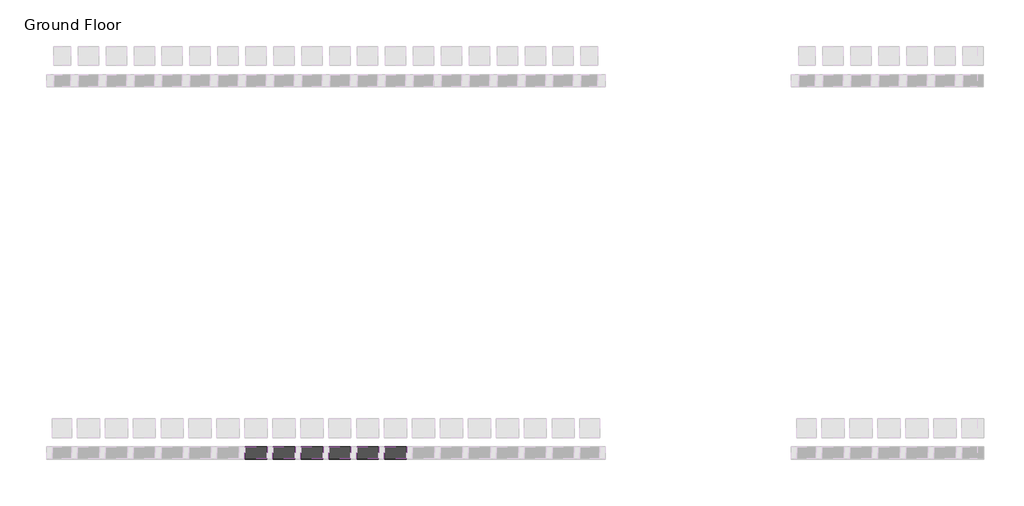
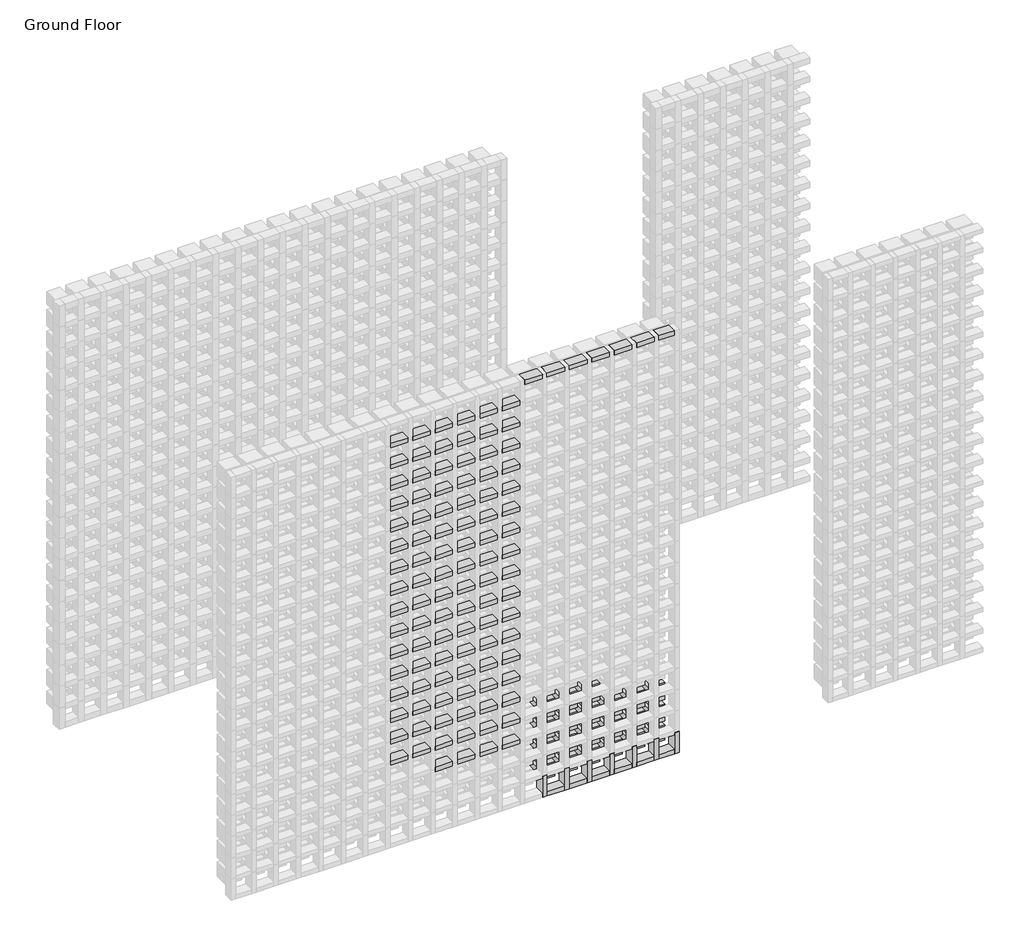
# One storey, part 70 of 350: 120 members, 21 plates.
"""IFC4 building model written with IfcOpenShell, lengths in millimetres."""

from ifc_helpers import new_model, si_unit, origin, place, context, project, spatial, transform, mapped, element, save
from components import rectangular_mullion_5b501421, rectangular_mullion_f2fcf417, rectangular_mullion_51467dcc, rectangular_mullion_27b03f3e, rectangular_mullion_d4c9a775, rectangular_mullion_f28dea33, rectangular_mullion_a9727e9f, empty_system_panel_empty_a57e421f, empty_system_panel_empty_fe50b430, empty_system_panel_empty_3353a095, empty_system_panel_empty_0cf761f0

model = new_model("IFC4")

# Units and contexts
model_context = context("Model", 3, world=origin())
ifc_project = project(units=[si_unit("LENGTHUNIT", "METRE", prefix="MILLI")], contexts=[model_context])

# Site, building, storey
site = spatial("IfcSite", under=ifc_project)
building = spatial("IfcBuilding", under=site)
storey = spatial("IfcBuildingStorey", under=building, Name="Ground Floor", Elevation=0.0)

# Members
placement = place(None, origin())
rectangular_mullion_shape = rectangular_mullion_5b501421(model_context)
element("IfcMember", 1, ObjectType="Rectangular Mullion : Batten_Timber_Modinex_Austratus_Grid_Fascia_30x65_Hemlock", at=placement, inside=storey, context=model_context, shape_type="MappedRepresentation", body=[
    mapped(rectangular_mullion_shape, transform((12016.4361642, 38968.2978302, 0.0), x_axis=(1.0, 0.0, 0.0), y_axis=(0.0, -1.0, 0.0), z_axis=(0.0, 0.0, -1.0))),
])
element("IfcMember", 2, ObjectType="Rectangular Mullion : Batten_Timber_Modinex_Austratus_Grid_Fascia_30x65_Hemlock", at=placement, inside=storey, context=model_context, shape_type="MappedRepresentation", body=[
    mapped(rectangular_mullion_shape, transform((12166.4361642, 38968.2978302, 0.0), x_axis=(1.0, 0.0, 0.0), y_axis=(0.0, -1.0, 0.0), z_axis=(0.0, 0.0, -1.0))),
])
element("IfcMember", 3, ObjectType="Rectangular Mullion : Batten_Timber_Modinex_Austratus_Grid_Fascia_30x65_Hemlock", at=placement, inside=storey, context=model_context, shape_type="MappedRepresentation", body=[
    mapped(rectangular_mullion_shape, transform((12316.4361642, 38968.2978302, 0.0), x_axis=(1.0, 0.0, 0.0), y_axis=(0.0, -1.0, 0.0), z_axis=(0.0, 0.0, -1.0))),
])
element("IfcMember", 4, ObjectType="Rectangular Mullion : Batten_Timber_Modinex_Austratus_Grid_Fascia_30x65_Hemlock", at=placement, inside=storey, context=model_context, shape_type="MappedRepresentation", body=[
    mapped(rectangular_mullion_shape, transform((12466.4361642, 38968.2978302, 0.0), x_axis=(1.0, 0.0, 0.0), y_axis=(0.0, -1.0, 0.0), z_axis=(0.0, 0.0, -1.0))),
])
element("IfcMember", 5, ObjectType="Rectangular Mullion : Batten_Timber_Modinex_Austratus_Grid_Fascia_30x65_Hemlock", at=placement, inside=storey, context=model_context, shape_type="MappedRepresentation", body=[
    mapped(rectangular_mullion_shape, transform((12616.4361642, 38968.2978302, 0.0), x_axis=(1.0, 0.0, 0.0), y_axis=(0.0, -1.0, 0.0), z_axis=(0.0, 0.0, -1.0))),
])
element("IfcMember", 6, ObjectType="Rectangular Mullion : Batten_Timber_Modinex_Austratus_Grid_Fascia_30x65_Hemlock", at=placement, inside=storey, context=model_context, shape_type="MappedRepresentation", body=[
    mapped(rectangular_mullion_shape, transform((12766.4361642, 38968.2978302, 0.0), x_axis=(1.0, 0.0, 0.0), y_axis=(0.0, -1.0, 0.0), z_axis=(0.0, 0.0, -1.0))),
])
rectangular_mullion_2_shape = rectangular_mullion_f2fcf417(model_context)
element("IfcMember", 7, ObjectType="Rectangular Mullion : Batten_Timber_Modinex_Austratus_Grid_Fascia_30x65_Hemlock", at=placement, inside=storey, context=model_context, shape_type="MappedRepresentation", body=[
    mapped(rectangular_mullion_2_shape, transform((12886.4361639, 38968.2978302, 3000.0), x_axis=(0.0, 0.0, 1.0), y_axis=(0.0, -1.0, 0.0), z_axis=(1.0, 0.0, 0.0))),
])
rectangular_mullion_3_shape = rectangular_mullion_51467dcc(model_context)
element("IfcMember", 8, ObjectType="Rectangular Mullion : Batten_Timber_Modinex_Austratus_Grid_Fascia_30x65_Hemlock", at=placement, inside=storey, context=model_context, shape_type="MappedRepresentation", body=[
    mapped(rectangular_mullion_3_shape, transform((12001.4361642, 38968.2978302, 3000.0), x_axis=(0.0, 0.0, 1.0), y_axis=(0.0, -1.0, 0.0), z_axis=(1.0, 0.0, 0.0))),
])
element("IfcMember", 9, ObjectType="Rectangular Mullion : Batten_Timber_Modinex_Austratus_Grid_Fascia_30x65_Hemlock", at=placement, inside=storey, context=model_context, shape_type="MappedRepresentation", body=[
    mapped(rectangular_mullion_3_shape, transform((12151.4361642, 38968.2978302, 3000.0), x_axis=(0.0, 0.0, 1.0), y_axis=(0.0, -1.0, 0.0), z_axis=(1.0, 0.0, 0.0))),
])
element("IfcMember", 10, ObjectType="Rectangular Mullion : Batten_Timber_Modinex_Austratus_Grid_Fascia_30x65_Hemlock", at=placement, inside=storey, context=model_context, shape_type="MappedRepresentation", body=[
    mapped(rectangular_mullion_3_shape, transform((12301.4361642, 38968.2978302, 3000.0), x_axis=(0.0, 0.0, 1.0), y_axis=(0.0, -1.0, 0.0), z_axis=(1.0, 0.0, 0.0))),
])
element("IfcMember", 11, ObjectType="Rectangular Mullion : Batten_Timber_Modinex_Austratus_Grid_Fascia_30x65_Hemlock", at=placement, inside=storey, context=model_context, shape_type="MappedRepresentation", body=[
    mapped(rectangular_mullion_3_shape, transform((12451.4361642, 38968.2978302, 3000.0), x_axis=(0.0, 0.0, 1.0), y_axis=(0.0, -1.0, 0.0), z_axis=(1.0, 0.0, 0.0))),
])
element("IfcMember", 12, ObjectType="Rectangular Mullion : Batten_Timber_Modinex_Austratus_Grid_Fascia_30x65_Hemlock", at=placement, inside=storey, context=model_context, shape_type="MappedRepresentation", body=[
    mapped(rectangular_mullion_3_shape, transform((12601.4361642, 38968.2978302, 3000.0), x_axis=(0.0, 0.0, 1.0), y_axis=(0.0, -1.0, 0.0), z_axis=(1.0, 0.0, 0.0))),
])
element("IfcMember", 13, ObjectType="Rectangular Mullion : Batten_Timber_Modinex_Austratus_Grid_Fascia_30x65_Hemlock", at=placement, inside=storey, context=model_context, shape_type="MappedRepresentation", body=[
    mapped(rectangular_mullion_3_shape, transform((12751.4361642, 38968.2978302, 3000.0), x_axis=(0.0, 0.0, 1.0), y_axis=(0.0, -1.0, 0.0), z_axis=(1.0, 0.0, 0.0))),
])
rectangular_mullion_4_shape = rectangular_mullion_27b03f3e(model_context)
element("IfcMember", 14, ObjectType="Rectangular Mullion : Batten_Timber_Modinex_Austratus_Grid_Fascia_30x65_Hemlock", at=placement, inside=storey, context=model_context, shape_type="MappedRepresentation", body=[
    mapped(rectangular_mullion_4_shape, transform((12781.4361642, 38968.2978302, 0.0), x_axis=(0.0, 0.0, -1.0), y_axis=(0.0, -1.0, 0.0), z_axis=(-1.0, 0.0, 0.0))),
])
rectangular_mullion_5_shape = rectangular_mullion_d4c9a775(model_context)
element("IfcMember", 15, ObjectType="Rectangular Mullion : Batten_Timber_Modinex_Austratus_Grid_Fascia_30x65_Hemlock", at=placement, inside=storey, context=model_context, shape_type="MappedRepresentation", body=[
    mapped(rectangular_mullion_5_shape, transform((12031.4361642, 38968.2978302, 0.0), x_axis=(0.0, 0.0, -1.0), y_axis=(0.0, -1.0, 0.0), z_axis=(-1.0, 0.0, 0.0))),
])
element("IfcMember", 16, ObjectType="Rectangular Mullion : Batten_Timber_Modinex_Austratus_Grid_Fascia_30x65_Hemlock", at=placement, inside=storey, context=model_context, shape_type="MappedRepresentation", body=[
    mapped(rectangular_mullion_5_shape, transform((12181.4361642, 38968.2978302, 0.0), x_axis=(0.0, 0.0, -1.0), y_axis=(0.0, -1.0, 0.0), z_axis=(-1.0, 0.0, 0.0))),
])
element("IfcMember", 17, ObjectType="Rectangular Mullion : Batten_Timber_Modinex_Austratus_Grid_Fascia_30x65_Hemlock", at=placement, inside=storey, context=model_context, shape_type="MappedRepresentation", body=[
    mapped(rectangular_mullion_5_shape, transform((12331.4361642, 38968.2978302, 0.0), x_axis=(0.0, 0.0, -1.0), y_axis=(0.0, -1.0, 0.0), z_axis=(-1.0, 0.0, 0.0))),
])
element("IfcMember", 18, ObjectType="Rectangular Mullion : Batten_Timber_Modinex_Austratus_Grid_Fascia_30x65_Hemlock", at=placement, inside=storey, context=model_context, shape_type="MappedRepresentation", body=[
    mapped(rectangular_mullion_5_shape, transform((12481.4361642, 38968.2978302, 0.0), x_axis=(0.0, 0.0, -1.0), y_axis=(0.0, -1.0, 0.0), z_axis=(-1.0, 0.0, 0.0))),
])
element("IfcMember", 19, ObjectType="Rectangular Mullion : Batten_Timber_Modinex_Austratus_Grid_Fascia_30x65_Hemlock", at=placement, inside=storey, context=model_context, shape_type="MappedRepresentation", body=[
    mapped(rectangular_mullion_5_shape, transform((12631.4361642, 38968.2978302, 0.0), x_axis=(0.0, 0.0, -1.0), y_axis=(0.0, -1.0, 0.0), z_axis=(-1.0, 0.0, 0.0))),
])
rectangular_mullion_6_shape = rectangular_mullion_f28dea33(model_context)
element("IfcMember", 20, ObjectType="Rectangular Mullion : Batten_Timber_Modinex_Austratus_Grid_Fascia_30x65_Hemlock", at=placement, inside=storey, context=model_context, shape_type="MappedRepresentation", body=[
    mapped(rectangular_mullion_6_shape, transform((11401.4361642, 38968.2978302, 450.0), x_axis=(0.0, 0.0, 1.0), y_axis=(0.0, -1.0, 0.0), z_axis=(1.0, 0.0, 0.0))),
])
element("IfcMember", 21, ObjectType="Rectangular Mullion : Batten_Timber_Modinex_Austratus_Grid_Fascia_30x65_Hemlock", at=placement, inside=storey, context=model_context, shape_type="MappedRepresentation", body=[
    mapped(rectangular_mullion_6_shape, transform((11551.4361642, 38968.2978302, 450.0), x_axis=(0.0, 0.0, 1.0), y_axis=(0.0, -1.0, 0.0), z_axis=(1.0, 0.0, 0.0))),
])
element("IfcMember", 22, ObjectType="Rectangular Mullion : Batten_Timber_Modinex_Austratus_Grid_Fascia_30x65_Hemlock", at=placement, inside=storey, context=model_context, shape_type="MappedRepresentation", body=[
    mapped(rectangular_mullion_6_shape, transform((11701.4361642, 38968.2978302, 450.0), x_axis=(0.0, 0.0, 1.0), y_axis=(0.0, -1.0, 0.0), z_axis=(1.0, 0.0, 0.0))),
])
element("IfcMember", 23, ObjectType="Rectangular Mullion : Batten_Timber_Modinex_Austratus_Grid_Fascia_30x65_Hemlock", at=placement, inside=storey, context=model_context, shape_type="MappedRepresentation", body=[
    mapped(rectangular_mullion_6_shape, transform((11851.4361642, 38968.2978302, 450.0), x_axis=(0.0, 0.0, 1.0), y_axis=(0.0, -1.0, 0.0), z_axis=(1.0, 0.0, 0.0))),
])
element("IfcMember", 24, ObjectType="Rectangular Mullion : Batten_Timber_Modinex_Austratus_Grid_Fascia_30x65_Hemlock", at=placement, inside=storey, context=model_context, shape_type="MappedRepresentation", body=[
    mapped(rectangular_mullion_6_shape, transform((11101.4361642, 38968.2978302, 600.0), x_axis=(0.0, 0.0, 1.0), y_axis=(0.0, -1.0, 0.0), z_axis=(1.0, 0.0, 0.0))),
])
element("IfcMember", 25, ObjectType="Rectangular Mullion : Batten_Timber_Modinex_Austratus_Grid_Fascia_30x65_Hemlock", at=placement, inside=storey, context=model_context, shape_type="MappedRepresentation", body=[
    mapped(rectangular_mullion_6_shape, transform((11251.4361642, 38968.2978302, 600.0), x_axis=(0.0, 0.0, 1.0), y_axis=(0.0, -1.0, 0.0), z_axis=(1.0, 0.0, 0.0))),
])
element("IfcMember", 26, ObjectType="Rectangular Mullion : Batten_Timber_Modinex_Austratus_Grid_Fascia_30x65_Hemlock", at=placement, inside=storey, context=model_context, shape_type="MappedRepresentation", body=[
    mapped(rectangular_mullion_6_shape, transform((11401.4361642, 38968.2978302, 600.0), x_axis=(0.0, 0.0, 1.0), y_axis=(0.0, -1.0, 0.0), z_axis=(1.0, 0.0, 0.0))),
])
element("IfcMember", 27, ObjectType="Rectangular Mullion : Batten_Timber_Modinex_Austratus_Grid_Fascia_30x65_Hemlock", at=placement, inside=storey, context=model_context, shape_type="MappedRepresentation", body=[
    mapped(rectangular_mullion_6_shape, transform((11551.4361642, 38968.2978302, 600.0), x_axis=(0.0, 0.0, 1.0), y_axis=(0.0, -1.0, 0.0), z_axis=(1.0, 0.0, 0.0))),
])
element("IfcMember", 28, ObjectType="Rectangular Mullion : Batten_Timber_Modinex_Austratus_Grid_Fascia_30x65_Hemlock", at=placement, inside=storey, context=model_context, shape_type="MappedRepresentation", body=[
    mapped(rectangular_mullion_6_shape, transform((11701.4361642, 38968.2978302, 600.0), x_axis=(0.0, 0.0, 1.0), y_axis=(0.0, -1.0, 0.0), z_axis=(1.0, 0.0, 0.0))),
])
element("IfcMember", 29, ObjectType="Rectangular Mullion : Batten_Timber_Modinex_Austratus_Grid_Fascia_30x65_Hemlock", at=placement, inside=storey, context=model_context, shape_type="MappedRepresentation", body=[
    mapped(rectangular_mullion_6_shape, transform((11851.4361642, 38968.2978302, 600.0), x_axis=(0.0, 0.0, 1.0), y_axis=(0.0, -1.0, 0.0), z_axis=(1.0, 0.0, 0.0))),
])
element("IfcMember", 30, ObjectType="Rectangular Mullion : Batten_Timber_Modinex_Austratus_Grid_Fascia_30x65_Hemlock", at=placement, inside=storey, context=model_context, shape_type="MappedRepresentation", body=[
    mapped(rectangular_mullion_6_shape, transform((11101.4361642, 38968.2978302, 750.0), x_axis=(0.0, 0.0, 1.0), y_axis=(0.0, -1.0, 0.0), z_axis=(1.0, 0.0, 0.0))),
])
element("IfcMember", 31, ObjectType="Rectangular Mullion : Batten_Timber_Modinex_Austratus_Grid_Fascia_30x65_Hemlock", at=placement, inside=storey, context=model_context, shape_type="MappedRepresentation", body=[
    mapped(rectangular_mullion_6_shape, transform((11251.4361642, 38968.2978302, 750.0), x_axis=(0.0, 0.0, 1.0), y_axis=(0.0, -1.0, 0.0), z_axis=(1.0, 0.0, 0.0))),
])
element("IfcMember", 32, ObjectType="Rectangular Mullion : Batten_Timber_Modinex_Austratus_Grid_Fascia_30x65_Hemlock", at=placement, inside=storey, context=model_context, shape_type="MappedRepresentation", body=[
    mapped(rectangular_mullion_6_shape, transform((11401.4361642, 38968.2978302, 750.0), x_axis=(0.0, 0.0, 1.0), y_axis=(0.0, -1.0, 0.0), z_axis=(1.0, 0.0, 0.0))),
])
element("IfcMember", 33, ObjectType="Rectangular Mullion : Batten_Timber_Modinex_Austratus_Grid_Fascia_30x65_Hemlock", at=placement, inside=storey, context=model_context, shape_type="MappedRepresentation", body=[
    mapped(rectangular_mullion_6_shape, transform((11551.4361642, 38968.2978302, 750.0), x_axis=(0.0, 0.0, 1.0), y_axis=(0.0, -1.0, 0.0), z_axis=(1.0, 0.0, 0.0))),
])
element("IfcMember", 34, ObjectType="Rectangular Mullion : Batten_Timber_Modinex_Austratus_Grid_Fascia_30x65_Hemlock", at=placement, inside=storey, context=model_context, shape_type="MappedRepresentation", body=[
    mapped(rectangular_mullion_6_shape, transform((11701.4361642, 38968.2978302, 750.0), x_axis=(0.0, 0.0, 1.0), y_axis=(0.0, -1.0, 0.0), z_axis=(1.0, 0.0, 0.0))),
])
element("IfcMember", 35, ObjectType="Rectangular Mullion : Batten_Timber_Modinex_Austratus_Grid_Fascia_30x65_Hemlock", at=placement, inside=storey, context=model_context, shape_type="MappedRepresentation", body=[
    mapped(rectangular_mullion_6_shape, transform((11851.4361642, 38968.2978302, 750.0), x_axis=(0.0, 0.0, 1.0), y_axis=(0.0, -1.0, 0.0), z_axis=(1.0, 0.0, 0.0))),
])
element("IfcMember", 36, ObjectType="Rectangular Mullion : Batten_Timber_Modinex_Austratus_Grid_Fascia_30x65_Hemlock", at=placement, inside=storey, context=model_context, shape_type="MappedRepresentation", body=[
    mapped(rectangular_mullion_6_shape, transform((11101.4361642, 38968.2978302, 900.0), x_axis=(0.0, 0.0, 1.0), y_axis=(0.0, -1.0, 0.0), z_axis=(1.0, 0.0, 0.0))),
])
element("IfcMember", 37, ObjectType="Rectangular Mullion : Batten_Timber_Modinex_Austratus_Grid_Fascia_30x65_Hemlock", at=placement, inside=storey, context=model_context, shape_type="MappedRepresentation", body=[
    mapped(rectangular_mullion_6_shape, transform((11251.4361642, 38968.2978302, 900.0), x_axis=(0.0, 0.0, 1.0), y_axis=(0.0, -1.0, 0.0), z_axis=(1.0, 0.0, 0.0))),
])
element("IfcMember", 38, ObjectType="Rectangular Mullion : Batten_Timber_Modinex_Austratus_Grid_Fascia_30x65_Hemlock", at=placement, inside=storey, context=model_context, shape_type="MappedRepresentation", body=[
    mapped(rectangular_mullion_6_shape, transform((11401.4361642, 38968.2978302, 900.0), x_axis=(0.0, 0.0, 1.0), y_axis=(0.0, -1.0, 0.0), z_axis=(1.0, 0.0, 0.0))),
])
element("IfcMember", 39, ObjectType="Rectangular Mullion : Batten_Timber_Modinex_Austratus_Grid_Fascia_30x65_Hemlock", at=placement, inside=storey, context=model_context, shape_type="MappedRepresentation", body=[
    mapped(rectangular_mullion_6_shape, transform((11551.4361642, 38968.2978302, 900.0), x_axis=(0.0, 0.0, 1.0), y_axis=(0.0, -1.0, 0.0), z_axis=(1.0, 0.0, 0.0))),
])
element("IfcMember", 40, ObjectType="Rectangular Mullion : Batten_Timber_Modinex_Austratus_Grid_Fascia_30x65_Hemlock", at=placement, inside=storey, context=model_context, shape_type="MappedRepresentation", body=[
    mapped(rectangular_mullion_6_shape, transform((11701.4361642, 38968.2978302, 900.0), x_axis=(0.0, 0.0, 1.0), y_axis=(0.0, -1.0, 0.0), z_axis=(1.0, 0.0, 0.0))),
])
element("IfcMember", 41, ObjectType="Rectangular Mullion : Batten_Timber_Modinex_Austratus_Grid_Fascia_30x65_Hemlock", at=placement, inside=storey, context=model_context, shape_type="MappedRepresentation", body=[
    mapped(rectangular_mullion_6_shape, transform((11851.4361642, 38968.2978302, 900.0), x_axis=(0.0, 0.0, 1.0), y_axis=(0.0, -1.0, 0.0), z_axis=(1.0, 0.0, 0.0))),
])
element("IfcMember", 42, ObjectType="Rectangular Mullion : Batten_Timber_Modinex_Austratus_Grid_Fascia_30x65_Hemlock", at=placement, inside=storey, context=model_context, shape_type="MappedRepresentation", body=[
    mapped(rectangular_mullion_6_shape, transform((11101.4361642, 38968.2978302, 1050.0), x_axis=(0.0, 0.0, 1.0), y_axis=(0.0, -1.0, 0.0), z_axis=(1.0, 0.0, 0.0))),
])
element("IfcMember", 43, ObjectType="Rectangular Mullion : Batten_Timber_Modinex_Austratus_Grid_Fascia_30x65_Hemlock", at=placement, inside=storey, context=model_context, shape_type="MappedRepresentation", body=[
    mapped(rectangular_mullion_6_shape, transform((11251.4361642, 38968.2978302, 1050.0), x_axis=(0.0, 0.0, 1.0), y_axis=(0.0, -1.0, 0.0), z_axis=(1.0, 0.0, 0.0))),
])
element("IfcMember", 44, ObjectType="Rectangular Mullion : Batten_Timber_Modinex_Austratus_Grid_Fascia_30x65_Hemlock", at=placement, inside=storey, context=model_context, shape_type="MappedRepresentation", body=[
    mapped(rectangular_mullion_6_shape, transform((11401.4361642, 38968.2978302, 1050.0), x_axis=(0.0, 0.0, 1.0), y_axis=(0.0, -1.0, 0.0), z_axis=(1.0, 0.0, 0.0))),
])
element("IfcMember", 45, ObjectType="Rectangular Mullion : Batten_Timber_Modinex_Austratus_Grid_Fascia_30x65_Hemlock", at=placement, inside=storey, context=model_context, shape_type="MappedRepresentation", body=[
    mapped(rectangular_mullion_6_shape, transform((11551.4361642, 38968.2978302, 1050.0), x_axis=(0.0, 0.0, 1.0), y_axis=(0.0, -1.0, 0.0), z_axis=(1.0, 0.0, 0.0))),
])
element("IfcMember", 46, ObjectType="Rectangular Mullion : Batten_Timber_Modinex_Austratus_Grid_Fascia_30x65_Hemlock", at=placement, inside=storey, context=model_context, shape_type="MappedRepresentation", body=[
    mapped(rectangular_mullion_6_shape, transform((11701.4361642, 38968.2978302, 1050.0), x_axis=(0.0, 0.0, 1.0), y_axis=(0.0, -1.0, 0.0), z_axis=(1.0, 0.0, 0.0))),
])
element("IfcMember", 47, ObjectType="Rectangular Mullion : Batten_Timber_Modinex_Austratus_Grid_Fascia_30x65_Hemlock", at=placement, inside=storey, context=model_context, shape_type="MappedRepresentation", body=[
    mapped(rectangular_mullion_6_shape, transform((11851.4361642, 38968.2978302, 1050.0), x_axis=(0.0, 0.0, 1.0), y_axis=(0.0, -1.0, 0.0), z_axis=(1.0, 0.0, 0.0))),
])
element("IfcMember", 48, ObjectType="Rectangular Mullion : Batten_Timber_Modinex_Austratus_Grid_Fascia_30x65_Hemlock", at=placement, inside=storey, context=model_context, shape_type="MappedRepresentation", body=[
    mapped(rectangular_mullion_6_shape, transform((11101.4361642, 38968.2978302, 1200.0), x_axis=(0.0, 0.0, 1.0), y_axis=(0.0, -1.0, 0.0), z_axis=(1.0, 0.0, 0.0))),
])
element("IfcMember", 49, ObjectType="Rectangular Mullion : Batten_Timber_Modinex_Austratus_Grid_Fascia_30x65_Hemlock", at=placement, inside=storey, context=model_context, shape_type="MappedRepresentation", body=[
    mapped(rectangular_mullion_6_shape, transform((11251.4361642, 38968.2978302, 1200.0), x_axis=(0.0, 0.0, 1.0), y_axis=(0.0, -1.0, 0.0), z_axis=(1.0, 0.0, 0.0))),
])
element("IfcMember", 50, ObjectType="Rectangular Mullion : Batten_Timber_Modinex_Austratus_Grid_Fascia_30x65_Hemlock", at=placement, inside=storey, context=model_context, shape_type="MappedRepresentation", body=[
    mapped(rectangular_mullion_6_shape, transform((11401.4361642, 38968.2978302, 1200.0), x_axis=(0.0, 0.0, 1.0), y_axis=(0.0, -1.0, 0.0), z_axis=(1.0, 0.0, 0.0))),
])
element("IfcMember", 51, ObjectType="Rectangular Mullion : Batten_Timber_Modinex_Austratus_Grid_Fascia_30x65_Hemlock", at=placement, inside=storey, context=model_context, shape_type="MappedRepresentation", body=[
    mapped(rectangular_mullion_6_shape, transform((11551.4361642, 38968.2978302, 1200.0), x_axis=(0.0, 0.0, 1.0), y_axis=(0.0, -1.0, 0.0), z_axis=(1.0, 0.0, 0.0))),
])
element("IfcMember", 52, ObjectType="Rectangular Mullion : Batten_Timber_Modinex_Austratus_Grid_Fascia_30x65_Hemlock", at=placement, inside=storey, context=model_context, shape_type="MappedRepresentation", body=[
    mapped(rectangular_mullion_6_shape, transform((11701.4361642, 38968.2978302, 1200.0), x_axis=(0.0, 0.0, 1.0), y_axis=(0.0, -1.0, 0.0), z_axis=(1.0, 0.0, 0.0))),
])
element("IfcMember", 53, ObjectType="Rectangular Mullion : Batten_Timber_Modinex_Austratus_Grid_Fascia_30x65_Hemlock", at=placement, inside=storey, context=model_context, shape_type="MappedRepresentation", body=[
    mapped(rectangular_mullion_6_shape, transform((11851.4361642, 38968.2978302, 1200.0), x_axis=(0.0, 0.0, 1.0), y_axis=(0.0, -1.0, 0.0), z_axis=(1.0, 0.0, 0.0))),
])
element("IfcMember", 54, ObjectType="Rectangular Mullion : Batten_Timber_Modinex_Austratus_Grid_Fascia_30x65_Hemlock", at=placement, inside=storey, context=model_context, shape_type="MappedRepresentation", body=[
    mapped(rectangular_mullion_6_shape, transform((11101.4361642, 38968.2978302, 1350.0), x_axis=(0.0, 0.0, 1.0), y_axis=(0.0, -1.0, 0.0), z_axis=(1.0, 0.0, 0.0))),
])
element("IfcMember", 55, ObjectType="Rectangular Mullion : Batten_Timber_Modinex_Austratus_Grid_Fascia_30x65_Hemlock", at=placement, inside=storey, context=model_context, shape_type="MappedRepresentation", body=[
    mapped(rectangular_mullion_6_shape, transform((11251.4361642, 38968.2978302, 1350.0), x_axis=(0.0, 0.0, 1.0), y_axis=(0.0, -1.0, 0.0), z_axis=(1.0, 0.0, 0.0))),
])
element("IfcMember", 56, ObjectType="Rectangular Mullion : Batten_Timber_Modinex_Austratus_Grid_Fascia_30x65_Hemlock", at=placement, inside=storey, context=model_context, shape_type="MappedRepresentation", body=[
    mapped(rectangular_mullion_6_shape, transform((11401.4361642, 38968.2978302, 1350.0), x_axis=(0.0, 0.0, 1.0), y_axis=(0.0, -1.0, 0.0), z_axis=(1.0, 0.0, 0.0))),
])
element("IfcMember", 57, ObjectType="Rectangular Mullion : Batten_Timber_Modinex_Austratus_Grid_Fascia_30x65_Hemlock", at=placement, inside=storey, context=model_context, shape_type="MappedRepresentation", body=[
    mapped(rectangular_mullion_6_shape, transform((11551.4361642, 38968.2978302, 1350.0), x_axis=(0.0, 0.0, 1.0), y_axis=(0.0, -1.0, 0.0), z_axis=(1.0, 0.0, 0.0))),
])
element("IfcMember", 58, ObjectType="Rectangular Mullion : Batten_Timber_Modinex_Austratus_Grid_Fascia_30x65_Hemlock", at=placement, inside=storey, context=model_context, shape_type="MappedRepresentation", body=[
    mapped(rectangular_mullion_6_shape, transform((11701.4361642, 38968.2978302, 1350.0), x_axis=(0.0, 0.0, 1.0), y_axis=(0.0, -1.0, 0.0), z_axis=(1.0, 0.0, 0.0))),
])
element("IfcMember", 59, ObjectType="Rectangular Mullion : Batten_Timber_Modinex_Austratus_Grid_Fascia_30x65_Hemlock", at=placement, inside=storey, context=model_context, shape_type="MappedRepresentation", body=[
    mapped(rectangular_mullion_6_shape, transform((11851.4361642, 38968.2978302, 1350.0), x_axis=(0.0, 0.0, 1.0), y_axis=(0.0, -1.0, 0.0), z_axis=(1.0, 0.0, 0.0))),
])
element("IfcMember", 60, ObjectType="Rectangular Mullion : Batten_Timber_Modinex_Austratus_Grid_Fascia_30x65_Hemlock", at=placement, inside=storey, context=model_context, shape_type="MappedRepresentation", body=[
    mapped(rectangular_mullion_6_shape, transform((11101.4361642, 38968.2978302, 1500.0), x_axis=(0.0, 0.0, 1.0), y_axis=(0.0, -1.0, 0.0), z_axis=(1.0, 0.0, 0.0))),
])
element("IfcMember", 61, ObjectType="Rectangular Mullion : Batten_Timber_Modinex_Austratus_Grid_Fascia_30x65_Hemlock", at=placement, inside=storey, context=model_context, shape_type="MappedRepresentation", body=[
    mapped(rectangular_mullion_6_shape, transform((11251.4361642, 38968.2978302, 1500.0), x_axis=(0.0, 0.0, 1.0), y_axis=(0.0, -1.0, 0.0), z_axis=(1.0, 0.0, 0.0))),
])
element("IfcMember", 62, ObjectType="Rectangular Mullion : Batten_Timber_Modinex_Austratus_Grid_Fascia_30x65_Hemlock", at=placement, inside=storey, context=model_context, shape_type="MappedRepresentation", body=[
    mapped(rectangular_mullion_6_shape, transform((11401.4361642, 38968.2978302, 1500.0), x_axis=(0.0, 0.0, 1.0), y_axis=(0.0, -1.0, 0.0), z_axis=(1.0, 0.0, 0.0))),
])
element("IfcMember", 63, ObjectType="Rectangular Mullion : Batten_Timber_Modinex_Austratus_Grid_Fascia_30x65_Hemlock", at=placement, inside=storey, context=model_context, shape_type="MappedRepresentation", body=[
    mapped(rectangular_mullion_6_shape, transform((11551.4361642, 38968.2978302, 1500.0), x_axis=(0.0, 0.0, 1.0), y_axis=(0.0, -1.0, 0.0), z_axis=(1.0, 0.0, 0.0))),
])
element("IfcMember", 64, ObjectType="Rectangular Mullion : Batten_Timber_Modinex_Austratus_Grid_Fascia_30x65_Hemlock", at=placement, inside=storey, context=model_context, shape_type="MappedRepresentation", body=[
    mapped(rectangular_mullion_6_shape, transform((11701.4361642, 38968.2978302, 1500.0), x_axis=(0.0, 0.0, 1.0), y_axis=(0.0, -1.0, 0.0), z_axis=(1.0, 0.0, 0.0))),
])
element("IfcMember", 65, ObjectType="Rectangular Mullion : Batten_Timber_Modinex_Austratus_Grid_Fascia_30x65_Hemlock", at=placement, inside=storey, context=model_context, shape_type="MappedRepresentation", body=[
    mapped(rectangular_mullion_6_shape, transform((11851.4361642, 38968.2978302, 1500.0), x_axis=(0.0, 0.0, 1.0), y_axis=(0.0, -1.0, 0.0), z_axis=(1.0, 0.0, 0.0))),
])
element("IfcMember", 66, ObjectType="Rectangular Mullion : Batten_Timber_Modinex_Austratus_Grid_Fascia_30x65_Hemlock", at=placement, inside=storey, context=model_context, shape_type="MappedRepresentation", body=[
    mapped(rectangular_mullion_6_shape, transform((11101.4361642, 38968.2978302, 1650.0), x_axis=(0.0, 0.0, 1.0), y_axis=(0.0, -1.0, 0.0), z_axis=(1.0, 0.0, 0.0))),
])
element("IfcMember", 67, ObjectType="Rectangular Mullion : Batten_Timber_Modinex_Austratus_Grid_Fascia_30x65_Hemlock", at=placement, inside=storey, context=model_context, shape_type="MappedRepresentation", body=[
    mapped(rectangular_mullion_6_shape, transform((11251.4361642, 38968.2978302, 1650.0), x_axis=(0.0, 0.0, 1.0), y_axis=(0.0, -1.0, 0.0), z_axis=(1.0, 0.0, 0.0))),
])
element("IfcMember", 68, ObjectType="Rectangular Mullion : Batten_Timber_Modinex_Austratus_Grid_Fascia_30x65_Hemlock", at=placement, inside=storey, context=model_context, shape_type="MappedRepresentation", body=[
    mapped(rectangular_mullion_6_shape, transform((11401.4361642, 38968.2978302, 1650.0), x_axis=(0.0, 0.0, 1.0), y_axis=(0.0, -1.0, 0.0), z_axis=(1.0, 0.0, 0.0))),
])
element("IfcMember", 69, ObjectType="Rectangular Mullion : Batten_Timber_Modinex_Austratus_Grid_Fascia_30x65_Hemlock", at=placement, inside=storey, context=model_context, shape_type="MappedRepresentation", body=[
    mapped(rectangular_mullion_6_shape, transform((11551.4361642, 38968.2978302, 1650.0), x_axis=(0.0, 0.0, 1.0), y_axis=(0.0, -1.0, 0.0), z_axis=(1.0, 0.0, 0.0))),
])
element("IfcMember", 70, ObjectType="Rectangular Mullion : Batten_Timber_Modinex_Austratus_Grid_Fascia_30x65_Hemlock", at=placement, inside=storey, context=model_context, shape_type="MappedRepresentation", body=[
    mapped(rectangular_mullion_6_shape, transform((11701.4361642, 38968.2978302, 1650.0), x_axis=(0.0, 0.0, 1.0), y_axis=(0.0, -1.0, 0.0), z_axis=(1.0, 0.0, 0.0))),
])
element("IfcMember", 71, ObjectType="Rectangular Mullion : Batten_Timber_Modinex_Austratus_Grid_Fascia_30x65_Hemlock", at=placement, inside=storey, context=model_context, shape_type="MappedRepresentation", body=[
    mapped(rectangular_mullion_6_shape, transform((11851.4361642, 38968.2978302, 1650.0), x_axis=(0.0, 0.0, 1.0), y_axis=(0.0, -1.0, 0.0), z_axis=(1.0, 0.0, 0.0))),
])
element("IfcMember", 72, ObjectType="Rectangular Mullion : Batten_Timber_Modinex_Austratus_Grid_Fascia_30x65_Hemlock", at=placement, inside=storey, context=model_context, shape_type="MappedRepresentation", body=[
    mapped(rectangular_mullion_6_shape, transform((11101.4361642, 38968.2978302, 1800.0), x_axis=(0.0, 0.0, 1.0), y_axis=(0.0, -1.0, 0.0), z_axis=(1.0, 0.0, 0.0))),
])
element("IfcMember", 73, ObjectType="Rectangular Mullion : Batten_Timber_Modinex_Austratus_Grid_Fascia_30x65_Hemlock", at=placement, inside=storey, context=model_context, shape_type="MappedRepresentation", body=[
    mapped(rectangular_mullion_6_shape, transform((11251.4361642, 38968.2978302, 1800.0), x_axis=(0.0, 0.0, 1.0), y_axis=(0.0, -1.0, 0.0), z_axis=(1.0, 0.0, 0.0))),
])
element("IfcMember", 74, ObjectType="Rectangular Mullion : Batten_Timber_Modinex_Austratus_Grid_Fascia_30x65_Hemlock", at=placement, inside=storey, context=model_context, shape_type="MappedRepresentation", body=[
    mapped(rectangular_mullion_6_shape, transform((11401.4361642, 38968.2978302, 1800.0), x_axis=(0.0, 0.0, 1.0), y_axis=(0.0, -1.0, 0.0), z_axis=(1.0, 0.0, 0.0))),
])
element("IfcMember", 75, ObjectType="Rectangular Mullion : Batten_Timber_Modinex_Austratus_Grid_Fascia_30x65_Hemlock", at=placement, inside=storey, context=model_context, shape_type="MappedRepresentation", body=[
    mapped(rectangular_mullion_6_shape, transform((11551.4361642, 38968.2978302, 1800.0), x_axis=(0.0, 0.0, 1.0), y_axis=(0.0, -1.0, 0.0), z_axis=(1.0, 0.0, 0.0))),
])
element("IfcMember", 76, ObjectType="Rectangular Mullion : Batten_Timber_Modinex_Austratus_Grid_Fascia_30x65_Hemlock", at=placement, inside=storey, context=model_context, shape_type="MappedRepresentation", body=[
    mapped(rectangular_mullion_6_shape, transform((11701.4361642, 38968.2978302, 1800.0), x_axis=(0.0, 0.0, 1.0), y_axis=(0.0, -1.0, 0.0), z_axis=(1.0, 0.0, 0.0))),
])
element("IfcMember", 77, ObjectType="Rectangular Mullion : Batten_Timber_Modinex_Austratus_Grid_Fascia_30x65_Hemlock", at=placement, inside=storey, context=model_context, shape_type="MappedRepresentation", body=[
    mapped(rectangular_mullion_6_shape, transform((11851.4361642, 38968.2978302, 1800.0), x_axis=(0.0, 0.0, 1.0), y_axis=(0.0, -1.0, 0.0), z_axis=(1.0, 0.0, 0.0))),
])
element("IfcMember", 78, ObjectType="Rectangular Mullion : Batten_Timber_Modinex_Austratus_Grid_Fascia_30x65_Hemlock", at=placement, inside=storey, context=model_context, shape_type="MappedRepresentation", body=[
    mapped(rectangular_mullion_6_shape, transform((11101.4361642, 38968.2978302, 1950.0), x_axis=(0.0, 0.0, 1.0), y_axis=(0.0, -1.0, 0.0), z_axis=(1.0, 0.0, 0.0))),
])
element("IfcMember", 79, ObjectType="Rectangular Mullion : Batten_Timber_Modinex_Austratus_Grid_Fascia_30x65_Hemlock", at=placement, inside=storey, context=model_context, shape_type="MappedRepresentation", body=[
    mapped(rectangular_mullion_6_shape, transform((11251.4361642, 38968.2978302, 1950.0), x_axis=(0.0, 0.0, 1.0), y_axis=(0.0, -1.0, 0.0), z_axis=(1.0, 0.0, 0.0))),
])
element("IfcMember", 80, ObjectType="Rectangular Mullion : Batten_Timber_Modinex_Austratus_Grid_Fascia_30x65_Hemlock", at=placement, inside=storey, context=model_context, shape_type="MappedRepresentation", body=[
    mapped(rectangular_mullion_6_shape, transform((11401.4361642, 38968.2978302, 1950.0), x_axis=(0.0, 0.0, 1.0), y_axis=(0.0, -1.0, 0.0), z_axis=(1.0, 0.0, 0.0))),
])
element("IfcMember", 81, ObjectType="Rectangular Mullion : Batten_Timber_Modinex_Austratus_Grid_Fascia_30x65_Hemlock", at=placement, inside=storey, context=model_context, shape_type="MappedRepresentation", body=[
    mapped(rectangular_mullion_6_shape, transform((11551.4361642, 38968.2978302, 1950.0), x_axis=(0.0, 0.0, 1.0), y_axis=(0.0, -1.0, 0.0), z_axis=(1.0, 0.0, 0.0))),
])
element("IfcMember", 82, ObjectType="Rectangular Mullion : Batten_Timber_Modinex_Austratus_Grid_Fascia_30x65_Hemlock", at=placement, inside=storey, context=model_context, shape_type="MappedRepresentation", body=[
    mapped(rectangular_mullion_6_shape, transform((11701.4361642, 38968.2978302, 1950.0), x_axis=(0.0, 0.0, 1.0), y_axis=(0.0, -1.0, 0.0), z_axis=(1.0, 0.0, 0.0))),
])
element("IfcMember", 83, ObjectType="Rectangular Mullion : Batten_Timber_Modinex_Austratus_Grid_Fascia_30x65_Hemlock", at=placement, inside=storey, context=model_context, shape_type="MappedRepresentation", body=[
    mapped(rectangular_mullion_6_shape, transform((11851.4361642, 38968.2978302, 1950.0), x_axis=(0.0, 0.0, 1.0), y_axis=(0.0, -1.0, 0.0), z_axis=(1.0, 0.0, 0.0))),
])
element("IfcMember", 84, ObjectType="Rectangular Mullion : Batten_Timber_Modinex_Austratus_Grid_Fascia_30x65_Hemlock", at=placement, inside=storey, context=model_context, shape_type="MappedRepresentation", body=[
    mapped(rectangular_mullion_6_shape, transform((11101.4361642, 38968.2978302, 2100.0), x_axis=(0.0, 0.0, 1.0), y_axis=(0.0, -1.0, 0.0), z_axis=(1.0, 0.0, 0.0))),
])
element("IfcMember", 85, ObjectType="Rectangular Mullion : Batten_Timber_Modinex_Austratus_Grid_Fascia_30x65_Hemlock", at=placement, inside=storey, context=model_context, shape_type="MappedRepresentation", body=[
    mapped(rectangular_mullion_6_shape, transform((11251.4361642, 38968.2978302, 2100.0), x_axis=(0.0, 0.0, 1.0), y_axis=(0.0, -1.0, 0.0), z_axis=(1.0, 0.0, 0.0))),
])
element("IfcMember", 86, ObjectType="Rectangular Mullion : Batten_Timber_Modinex_Austratus_Grid_Fascia_30x65_Hemlock", at=placement, inside=storey, context=model_context, shape_type="MappedRepresentation", body=[
    mapped(rectangular_mullion_6_shape, transform((11401.4361642, 38968.2978302, 2100.0), x_axis=(0.0, 0.0, 1.0), y_axis=(0.0, -1.0, 0.0), z_axis=(1.0, 0.0, 0.0))),
])
element("IfcMember", 87, ObjectType="Rectangular Mullion : Batten_Timber_Modinex_Austratus_Grid_Fascia_30x65_Hemlock", at=placement, inside=storey, context=model_context, shape_type="MappedRepresentation", body=[
    mapped(rectangular_mullion_6_shape, transform((11551.4361642, 38968.2978302, 2100.0), x_axis=(0.0, 0.0, 1.0), y_axis=(0.0, -1.0, 0.0), z_axis=(1.0, 0.0, 0.0))),
])
element("IfcMember", 88, ObjectType="Rectangular Mullion : Batten_Timber_Modinex_Austratus_Grid_Fascia_30x65_Hemlock", at=placement, inside=storey, context=model_context, shape_type="MappedRepresentation", body=[
    mapped(rectangular_mullion_6_shape, transform((11701.4361642, 38968.2978302, 2100.0), x_axis=(0.0, 0.0, 1.0), y_axis=(0.0, -1.0, 0.0), z_axis=(1.0, 0.0, 0.0))),
])
element("IfcMember", 89, ObjectType="Rectangular Mullion : Batten_Timber_Modinex_Austratus_Grid_Fascia_30x65_Hemlock", at=placement, inside=storey, context=model_context, shape_type="MappedRepresentation", body=[
    mapped(rectangular_mullion_6_shape, transform((11851.4361642, 38968.2978302, 2100.0), x_axis=(0.0, 0.0, 1.0), y_axis=(0.0, -1.0, 0.0), z_axis=(1.0, 0.0, 0.0))),
])
element("IfcMember", 90, ObjectType="Rectangular Mullion : Batten_Timber_Modinex_Austratus_Grid_Fascia_30x65_Hemlock", at=placement, inside=storey, context=model_context, shape_type="MappedRepresentation", body=[
    mapped(rectangular_mullion_6_shape, transform((11101.4361642, 38968.2978302, 2250.0), x_axis=(0.0, 0.0, 1.0), y_axis=(0.0, -1.0, 0.0), z_axis=(1.0, 0.0, 0.0))),
])
element("IfcMember", 91, ObjectType="Rectangular Mullion : Batten_Timber_Modinex_Austratus_Grid_Fascia_30x65_Hemlock", at=placement, inside=storey, context=model_context, shape_type="MappedRepresentation", body=[
    mapped(rectangular_mullion_6_shape, transform((11251.4361642, 38968.2978302, 2250.0), x_axis=(0.0, 0.0, 1.0), y_axis=(0.0, -1.0, 0.0), z_axis=(1.0, 0.0, 0.0))),
])
element("IfcMember", 92, ObjectType="Rectangular Mullion : Batten_Timber_Modinex_Austratus_Grid_Fascia_30x65_Hemlock", at=placement, inside=storey, context=model_context, shape_type="MappedRepresentation", body=[
    mapped(rectangular_mullion_6_shape, transform((11401.4361642, 38968.2978302, 2250.0), x_axis=(0.0, 0.0, 1.0), y_axis=(0.0, -1.0, 0.0), z_axis=(1.0, 0.0, 0.0))),
])
element("IfcMember", 93, ObjectType="Rectangular Mullion : Batten_Timber_Modinex_Austratus_Grid_Fascia_30x65_Hemlock", at=placement, inside=storey, context=model_context, shape_type="MappedRepresentation", body=[
    mapped(rectangular_mullion_6_shape, transform((11551.4361642, 38968.2978302, 2250.0), x_axis=(0.0, 0.0, 1.0), y_axis=(0.0, -1.0, 0.0), z_axis=(1.0, 0.0, 0.0))),
])
element("IfcMember", 94, ObjectType="Rectangular Mullion : Batten_Timber_Modinex_Austratus_Grid_Fascia_30x65_Hemlock", at=placement, inside=storey, context=model_context, shape_type="MappedRepresentation", body=[
    mapped(rectangular_mullion_6_shape, transform((11701.4361642, 38968.2978302, 2250.0), x_axis=(0.0, 0.0, 1.0), y_axis=(0.0, -1.0, 0.0), z_axis=(1.0, 0.0, 0.0))),
])
element("IfcMember", 95, ObjectType="Rectangular Mullion : Batten_Timber_Modinex_Austratus_Grid_Fascia_30x65_Hemlock", at=placement, inside=storey, context=model_context, shape_type="MappedRepresentation", body=[
    mapped(rectangular_mullion_6_shape, transform((11851.4361642, 38968.2978302, 2250.0), x_axis=(0.0, 0.0, 1.0), y_axis=(0.0, -1.0, 0.0), z_axis=(1.0, 0.0, 0.0))),
])
element("IfcMember", 96, ObjectType="Rectangular Mullion : Batten_Timber_Modinex_Austratus_Grid_Fascia_30x65_Hemlock", at=placement, inside=storey, context=model_context, shape_type="MappedRepresentation", body=[
    mapped(rectangular_mullion_6_shape, transform((11101.4361642, 38968.2978302, 2400.0), x_axis=(0.0, 0.0, 1.0), y_axis=(0.0, -1.0, 0.0), z_axis=(1.0, 0.0, 0.0))),
])
element("IfcMember", 97, ObjectType="Rectangular Mullion : Batten_Timber_Modinex_Austratus_Grid_Fascia_30x65_Hemlock", at=placement, inside=storey, context=model_context, shape_type="MappedRepresentation", body=[
    mapped(rectangular_mullion_6_shape, transform((11251.4361642, 38968.2978302, 2400.0), x_axis=(0.0, 0.0, 1.0), y_axis=(0.0, -1.0, 0.0), z_axis=(1.0, 0.0, 0.0))),
])
element("IfcMember", 98, ObjectType="Rectangular Mullion : Batten_Timber_Modinex_Austratus_Grid_Fascia_30x65_Hemlock", at=placement, inside=storey, context=model_context, shape_type="MappedRepresentation", body=[
    mapped(rectangular_mullion_6_shape, transform((11401.4361642, 38968.2978302, 2400.0), x_axis=(0.0, 0.0, 1.0), y_axis=(0.0, -1.0, 0.0), z_axis=(1.0, 0.0, 0.0))),
])
element("IfcMember", 99, ObjectType="Rectangular Mullion : Batten_Timber_Modinex_Austratus_Grid_Fascia_30x65_Hemlock", at=placement, inside=storey, context=model_context, shape_type="MappedRepresentation", body=[
    mapped(rectangular_mullion_6_shape, transform((11551.4361642, 38968.2978302, 2400.0), x_axis=(0.0, 0.0, 1.0), y_axis=(0.0, -1.0, 0.0), z_axis=(1.0, 0.0, 0.0))),
])
element("IfcMember", 100, ObjectType="Rectangular Mullion : Batten_Timber_Modinex_Austratus_Grid_Fascia_30x65_Hemlock", at=placement, inside=storey, context=model_context, shape_type="MappedRepresentation", body=[
    mapped(rectangular_mullion_6_shape, transform((11701.4361642, 38968.2978302, 2400.0), x_axis=(0.0, 0.0, 1.0), y_axis=(0.0, -1.0, 0.0), z_axis=(1.0, 0.0, 0.0))),
])
element("IfcMember", 101, ObjectType="Rectangular Mullion : Batten_Timber_Modinex_Austratus_Grid_Fascia_30x65_Hemlock", at=placement, inside=storey, context=model_context, shape_type="MappedRepresentation", body=[
    mapped(rectangular_mullion_6_shape, transform((11851.4361642, 38968.2978302, 2400.0), x_axis=(0.0, 0.0, 1.0), y_axis=(0.0, -1.0, 0.0), z_axis=(1.0, 0.0, 0.0))),
])
element("IfcMember", 102, ObjectType="Rectangular Mullion : Batten_Timber_Modinex_Austratus_Grid_Fascia_30x65_Hemlock", at=placement, inside=storey, context=model_context, shape_type="MappedRepresentation", body=[
    mapped(rectangular_mullion_6_shape, transform((11101.4361642, 38968.2978302, 2550.0), x_axis=(0.0, 0.0, 1.0), y_axis=(0.0, -1.0, 0.0), z_axis=(1.0, 0.0, 0.0))),
])
element("IfcMember", 103, ObjectType="Rectangular Mullion : Batten_Timber_Modinex_Austratus_Grid_Fascia_30x65_Hemlock", at=placement, inside=storey, context=model_context, shape_type="MappedRepresentation", body=[
    mapped(rectangular_mullion_6_shape, transform((11251.4361642, 38968.2978302, 2550.0), x_axis=(0.0, 0.0, 1.0), y_axis=(0.0, -1.0, 0.0), z_axis=(1.0, 0.0, 0.0))),
])
element("IfcMember", 104, ObjectType="Rectangular Mullion : Batten_Timber_Modinex_Austratus_Grid_Fascia_30x65_Hemlock", at=placement, inside=storey, context=model_context, shape_type="MappedRepresentation", body=[
    mapped(rectangular_mullion_6_shape, transform((11401.4361642, 38968.2978302, 2550.0), x_axis=(0.0, 0.0, 1.0), y_axis=(0.0, -1.0, 0.0), z_axis=(1.0, 0.0, 0.0))),
])
element("IfcMember", 105, ObjectType="Rectangular Mullion : Batten_Timber_Modinex_Austratus_Grid_Fascia_30x65_Hemlock", at=placement, inside=storey, context=model_context, shape_type="MappedRepresentation", body=[
    mapped(rectangular_mullion_6_shape, transform((11551.4361642, 38968.2978302, 2550.0), x_axis=(0.0, 0.0, 1.0), y_axis=(0.0, -1.0, 0.0), z_axis=(1.0, 0.0, 0.0))),
])
element("IfcMember", 106, ObjectType="Rectangular Mullion : Batten_Timber_Modinex_Austratus_Grid_Fascia_30x65_Hemlock", at=placement, inside=storey, context=model_context, shape_type="MappedRepresentation", body=[
    mapped(rectangular_mullion_6_shape, transform((11701.4361642, 38968.2978302, 2550.0), x_axis=(0.0, 0.0, 1.0), y_axis=(0.0, -1.0, 0.0), z_axis=(1.0, 0.0, 0.0))),
])
element("IfcMember", 107, ObjectType="Rectangular Mullion : Batten_Timber_Modinex_Austratus_Grid_Fascia_30x65_Hemlock", at=placement, inside=storey, context=model_context, shape_type="MappedRepresentation", body=[
    mapped(rectangular_mullion_6_shape, transform((11851.4361642, 38968.2978302, 2550.0), x_axis=(0.0, 0.0, 1.0), y_axis=(0.0, -1.0, 0.0), z_axis=(1.0, 0.0, 0.0))),
])
element("IfcMember", 108, ObjectType="Rectangular Mullion : Batten_Timber_Modinex_Austratus_Grid_Fascia_30x65_Hemlock", at=placement, inside=storey, context=model_context, shape_type="MappedRepresentation", body=[
    mapped(rectangular_mullion_6_shape, transform((11101.4361642, 38968.2978302, 2700.0), x_axis=(0.0, 0.0, 1.0), y_axis=(0.0, -1.0, 0.0), z_axis=(1.0, 0.0, 0.0))),
])
element("IfcMember", 109, ObjectType="Rectangular Mullion : Batten_Timber_Modinex_Austratus_Grid_Fascia_30x65_Hemlock", at=placement, inside=storey, context=model_context, shape_type="MappedRepresentation", body=[
    mapped(rectangular_mullion_6_shape, transform((11251.4361642, 38968.2978302, 2700.0), x_axis=(0.0, 0.0, 1.0), y_axis=(0.0, -1.0, 0.0), z_axis=(1.0, 0.0, 0.0))),
])
element("IfcMember", 110, ObjectType="Rectangular Mullion : Batten_Timber_Modinex_Austratus_Grid_Fascia_30x65_Hemlock", at=placement, inside=storey, context=model_context, shape_type="MappedRepresentation", body=[
    mapped(rectangular_mullion_6_shape, transform((11401.4361642, 38968.2978302, 2700.0), x_axis=(0.0, 0.0, 1.0), y_axis=(0.0, -1.0, 0.0), z_axis=(1.0, 0.0, 0.0))),
])
element("IfcMember", 111, ObjectType="Rectangular Mullion : Batten_Timber_Modinex_Austratus_Grid_Fascia_30x65_Hemlock", at=placement, inside=storey, context=model_context, shape_type="MappedRepresentation", body=[
    mapped(rectangular_mullion_6_shape, transform((11551.4361642, 38968.2978302, 2700.0), x_axis=(0.0, 0.0, 1.0), y_axis=(0.0, -1.0, 0.0), z_axis=(1.0, 0.0, 0.0))),
])
element("IfcMember", 112, ObjectType="Rectangular Mullion : Batten_Timber_Modinex_Austratus_Grid_Fascia_30x65_Hemlock", at=placement, inside=storey, context=model_context, shape_type="MappedRepresentation", body=[
    mapped(rectangular_mullion_6_shape, transform((11701.4361642, 38968.2978302, 2700.0), x_axis=(0.0, 0.0, 1.0), y_axis=(0.0, -1.0, 0.0), z_axis=(1.0, 0.0, 0.0))),
])
element("IfcMember", 113, ObjectType="Rectangular Mullion : Batten_Timber_Modinex_Austratus_Grid_Fascia_30x65_Hemlock", at=placement, inside=storey, context=model_context, shape_type="MappedRepresentation", body=[
    mapped(rectangular_mullion_6_shape, transform((11851.4361642, 38968.2978302, 2700.0), x_axis=(0.0, 0.0, 1.0), y_axis=(0.0, -1.0, 0.0), z_axis=(1.0, 0.0, 0.0))),
])
element("IfcMember", 114, ObjectType="Rectangular Mullion : Batten_Timber_Modinex_Austratus_Grid_Fascia_30x65_Hemlock", at=placement, inside=storey, context=model_context, shape_type="MappedRepresentation", body=[
    mapped(rectangular_mullion_6_shape, transform((11101.4361642, 38968.2978302, 2850.0), x_axis=(0.0, 0.0, 1.0), y_axis=(0.0, -1.0, 0.0), z_axis=(1.0, 0.0, 0.0))),
])
element("IfcMember", 115, ObjectType="Rectangular Mullion : Batten_Timber_Modinex_Austratus_Grid_Fascia_30x65_Hemlock", at=placement, inside=storey, context=model_context, shape_type="MappedRepresentation", body=[
    mapped(rectangular_mullion_6_shape, transform((11251.4361642, 38968.2978302, 2850.0), x_axis=(0.0, 0.0, 1.0), y_axis=(0.0, -1.0, 0.0), z_axis=(1.0, 0.0, 0.0))),
])
element("IfcMember", 116, ObjectType="Rectangular Mullion : Batten_Timber_Modinex_Austratus_Grid_Fascia_30x65_Hemlock", at=placement, inside=storey, context=model_context, shape_type="MappedRepresentation", body=[
    mapped(rectangular_mullion_6_shape, transform((11401.4361642, 38968.2978302, 2850.0), x_axis=(0.0, 0.0, 1.0), y_axis=(0.0, -1.0, 0.0), z_axis=(1.0, 0.0, 0.0))),
])
element("IfcMember", 117, ObjectType="Rectangular Mullion : Batten_Timber_Modinex_Austratus_Grid_Fascia_30x65_Hemlock", at=placement, inside=storey, context=model_context, shape_type="MappedRepresentation", body=[
    mapped(rectangular_mullion_6_shape, transform((11551.4361642, 38968.2978302, 2850.0), x_axis=(0.0, 0.0, 1.0), y_axis=(0.0, -1.0, 0.0), z_axis=(1.0, 0.0, 0.0))),
])
element("IfcMember", 118, ObjectType="Rectangular Mullion : Batten_Timber_Modinex_Austratus_Grid_Fascia_30x65_Hemlock", at=placement, inside=storey, context=model_context, shape_type="MappedRepresentation", body=[
    mapped(rectangular_mullion_6_shape, transform((11701.4361642, 38968.2978302, 2850.0), x_axis=(0.0, 0.0, 1.0), y_axis=(0.0, -1.0, 0.0), z_axis=(1.0, 0.0, 0.0))),
])
element("IfcMember", 119, ObjectType="Rectangular Mullion : Batten_Timber_Modinex_Austratus_Grid_Fascia_30x65_Hemlock", at=placement, inside=storey, context=model_context, shape_type="MappedRepresentation", body=[
    mapped(rectangular_mullion_6_shape, transform((11851.4361642, 38968.2978302, 2850.0), x_axis=(0.0, 0.0, 1.0), y_axis=(0.0, -1.0, 0.0), z_axis=(1.0, 0.0, 0.0))),
])
rectangular_mullion_7_shape = rectangular_mullion_a9727e9f(model_context)
element("IfcMember", 120, ObjectType="Rectangular Mullion : Batten_Timber_Modinex_Austratus_Grid_Fascia_30x65_Hemlock", at=placement, inside=storey, context=model_context, shape_type="MappedRepresentation", body=[
    mapped(rectangular_mullion_7_shape, transform((12916.4361639, 38968.2978302, 0.0), x_axis=(1.0, 0.0, 0.0), y_axis=(0.0, -1.0, 0.0), z_axis=(0.0, 0.0, -1.0))),
])

# Plates
empty_system_panel_empty_shape = empty_system_panel_empty_a57e421f(model_context)
element("IfcPlate", 121, ObjectType="Empty System Panel : Empty", at=placement, inside=storey, context=model_context, shape_type="MappedRepresentation", body=[
    mapped(empty_system_panel_empty_shape, transform((12091.4361642, 38968.2978302, 165.0), x_axis=(1.0, 0.0, 0.0), y_axis=(0.0, 1.0, 0.0), z_axis=(0.0, 0.0, 1.0))),
])
element("IfcPlate", 122, ObjectType="Empty System Panel : Empty", at=placement, inside=storey, context=model_context, shape_type="MappedRepresentation", body=[
    mapped(empty_system_panel_empty_shape, transform((12241.4361642, 38968.2978302, 165.0), x_axis=(1.0, 0.0, 0.0), y_axis=(0.0, 1.0, 0.0), z_axis=(0.0, 0.0, 1.0))),
])
element("IfcPlate", 123, ObjectType="Empty System Panel : Empty", at=placement, inside=storey, context=model_context, shape_type="MappedRepresentation", body=[
    mapped(empty_system_panel_empty_shape, transform((12391.4361642, 38968.2978302, 165.0), x_axis=(1.0, 0.0, 0.0), y_axis=(0.0, 1.0, 0.0), z_axis=(0.0, 0.0, 1.0))),
])
element("IfcPlate", 124, ObjectType="Empty System Panel : Empty", at=placement, inside=storey, context=model_context, shape_type="MappedRepresentation", body=[
    mapped(empty_system_panel_empty_shape, transform((12541.4361642, 38968.2978302, 165.0), x_axis=(1.0, 0.0, 0.0), y_axis=(0.0, 1.0, 0.0), z_axis=(0.0, 0.0, 1.0))),
])
element("IfcPlate", 125, ObjectType="Empty System Panel : Empty", at=placement, inside=storey, context=model_context, shape_type="MappedRepresentation", body=[
    mapped(empty_system_panel_empty_shape, transform((12691.4361642, 38968.2978302, 165.0), x_axis=(1.0, 0.0, 0.0), y_axis=(0.0, 1.0, 0.0), z_axis=(0.0, 0.0, 1.0))),
])
element("IfcPlate", 126, ObjectType="Empty System Panel : Empty", at=placement, inside=storey, context=model_context, shape_type="MappedRepresentation", body=[
    mapped(empty_system_panel_empty_shape, transform((12091.4361642, 38968.2978302, 315.0), x_axis=(1.0, 0.0, 0.0), y_axis=(0.0, 1.0, 0.0), z_axis=(0.0, 0.0, 1.0))),
])
element("IfcPlate", 127, ObjectType="Empty System Panel : Empty", at=placement, inside=storey, context=model_context, shape_type="MappedRepresentation", body=[
    mapped(empty_system_panel_empty_shape, transform((12241.4361642, 38968.2978302, 315.0), x_axis=(1.0, 0.0, 0.0), y_axis=(0.0, 1.0, 0.0), z_axis=(0.0, 0.0, 1.0))),
])
element("IfcPlate", 128, ObjectType="Empty System Panel : Empty", at=placement, inside=storey, context=model_context, shape_type="MappedRepresentation", body=[
    mapped(empty_system_panel_empty_shape, transform((12391.4361642, 38968.2978302, 315.0), x_axis=(1.0, 0.0, 0.0), y_axis=(0.0, 1.0, 0.0), z_axis=(0.0, 0.0, 1.0))),
])
element("IfcPlate", 129, ObjectType="Empty System Panel : Empty", at=placement, inside=storey, context=model_context, shape_type="MappedRepresentation", body=[
    mapped(empty_system_panel_empty_shape, transform((12541.4361642, 38968.2978302, 315.0), x_axis=(1.0, 0.0, 0.0), y_axis=(0.0, 1.0, 0.0), z_axis=(0.0, 0.0, 1.0))),
])
element("IfcPlate", 130, ObjectType="Empty System Panel : Empty", at=placement, inside=storey, context=model_context, shape_type="MappedRepresentation", body=[
    mapped(empty_system_panel_empty_shape, transform((12691.4361642, 38968.2978302, 315.0), x_axis=(1.0, 0.0, 0.0), y_axis=(0.0, 1.0, 0.0), z_axis=(0.0, 0.0, 1.0))),
])
element("IfcPlate", 131, ObjectType="Empty System Panel : Empty", at=placement, inside=storey, context=model_context, shape_type="MappedRepresentation", body=[
    mapped(empty_system_panel_empty_shape, transform((12091.4361642, 38968.2978302, 465.0), x_axis=(1.0, 0.0, 0.0), y_axis=(0.0, 1.0, 0.0), z_axis=(0.0, 0.0, 1.0))),
])
element("IfcPlate", 132, ObjectType="Empty System Panel : Empty", at=placement, inside=storey, context=model_context, shape_type="MappedRepresentation", body=[
    mapped(empty_system_panel_empty_shape, transform((12241.4361642, 38968.2978302, 465.0), x_axis=(1.0, 0.0, 0.0), y_axis=(0.0, 1.0, 0.0), z_axis=(0.0, 0.0, 1.0))),
])
element("IfcPlate", 133, ObjectType="Empty System Panel : Empty", at=placement, inside=storey, context=model_context, shape_type="MappedRepresentation", body=[
    mapped(empty_system_panel_empty_shape, transform((12391.4361642, 38968.2978302, 465.0), x_axis=(1.0, 0.0, 0.0), y_axis=(0.0, 1.0, 0.0), z_axis=(0.0, 0.0, 1.0))),
])
empty_system_panel_empty_2_shape = empty_system_panel_empty_fe50b430(model_context)
element("IfcPlate", 134, ObjectType="Empty System Panel : Empty", at=placement, inside=storey, context=model_context, shape_type="MappedRepresentation", body=[
    mapped(empty_system_panel_empty_2_shape, transform((12091.4361642, 38968.2978302, 30.0), x_axis=(1.0, 0.0, 0.0), y_axis=(0.0, 1.0, 0.0), z_axis=(0.0, 0.0, 1.0))),
])
element("IfcPlate", 135, ObjectType="Empty System Panel : Empty", at=placement, inside=storey, context=model_context, shape_type="MappedRepresentation", body=[
    mapped(empty_system_panel_empty_2_shape, transform((12241.4361642, 38968.2978302, 30.0), x_axis=(1.0, 0.0, 0.0), y_axis=(0.0, 1.0, 0.0), z_axis=(0.0, 0.0, 1.0))),
])
element("IfcPlate", 136, ObjectType="Empty System Panel : Empty", at=placement, inside=storey, context=model_context, shape_type="MappedRepresentation", body=[
    mapped(empty_system_panel_empty_2_shape, transform((12391.4361642, 38968.2978302, 30.0), x_axis=(1.0, 0.0, 0.0), y_axis=(0.0, 1.0, 0.0), z_axis=(0.0, 0.0, 1.0))),
])
element("IfcPlate", 137, ObjectType="Empty System Panel : Empty", at=placement, inside=storey, context=model_context, shape_type="MappedRepresentation", body=[
    mapped(empty_system_panel_empty_2_shape, transform((12541.4361642, 38968.2978302, 30.0), x_axis=(1.0, 0.0, 0.0), y_axis=(0.0, 1.0, 0.0), z_axis=(0.0, 0.0, 1.0))),
])
element("IfcPlate", 138, ObjectType="Empty System Panel : Empty", at=placement, inside=storey, context=model_context, shape_type="MappedRepresentation", body=[
    mapped(empty_system_panel_empty_2_shape, transform((12691.4361642, 38968.2978302, 30.0), x_axis=(1.0, 0.0, 0.0), y_axis=(0.0, 1.0, 0.0), z_axis=(0.0, 0.0, 1.0))),
])
empty_system_panel_empty_3_shape = empty_system_panel_empty_3353a095(model_context)
element("IfcPlate", 139, ObjectType="Empty System Panel : Empty", at=placement, inside=storey, context=model_context, shape_type="MappedRepresentation", body=[
    mapped(empty_system_panel_empty_3_shape, transform((12833.9361641, 38968.2978302, 30.0), x_axis=(1.0, 0.0, 0.0), y_axis=(0.0, 1.0, 0.0), z_axis=(0.0, 0.0, 1.0))),
])
empty_system_panel_empty_4_shape = empty_system_panel_empty_0cf761f0(model_context)
element("IfcPlate", 140, ObjectType="Empty System Panel : Empty", at=placement, inside=storey, context=model_context, shape_type="MappedRepresentation", body=[
    mapped(empty_system_panel_empty_4_shape, transform((12833.9361641, 38968.2978302, 165.0), x_axis=(1.0, 0.0, 0.0), y_axis=(0.0, 1.0, 0.0), z_axis=(0.0, 0.0, 1.0))),
])
element("IfcPlate", 141, ObjectType="Empty System Panel : Empty", at=placement, inside=storey, context=model_context, shape_type="MappedRepresentation", body=[
    mapped(empty_system_panel_empty_4_shape, transform((12833.9361641, 38968.2978302, 315.0), x_axis=(1.0, 0.0, 0.0), y_axis=(0.0, 1.0, 0.0), z_axis=(0.0, 0.0, 1.0))),
])

save(model, "model.ifc")
